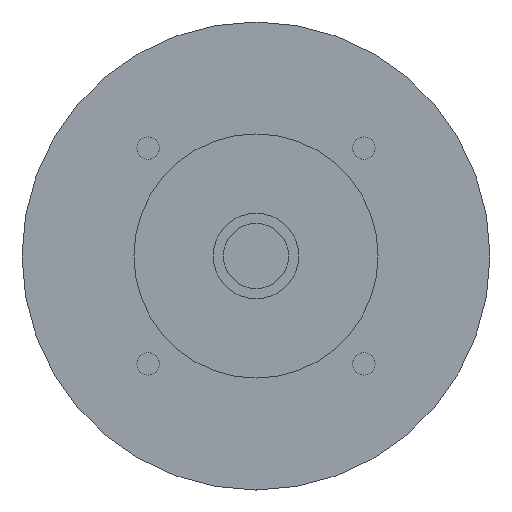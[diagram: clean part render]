
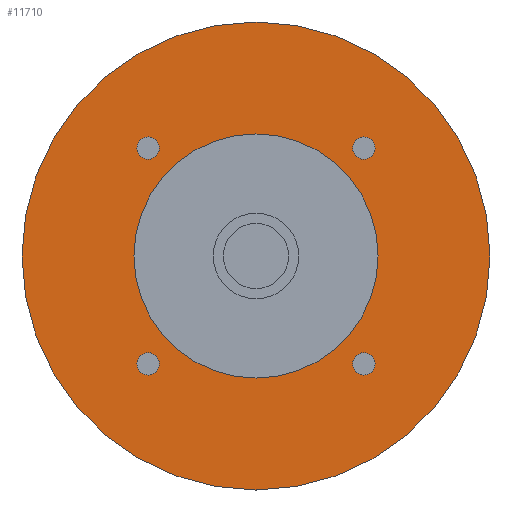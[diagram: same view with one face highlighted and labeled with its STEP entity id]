
A CAD part, left-side view. The second image highlights one B-rep face of the part: STEP entity #11710.
In plain terms, the highlighted planar face has unit normal (-1, 0, 0) as drawn and (0, 0, -1) by its records, which use the part's own axes.
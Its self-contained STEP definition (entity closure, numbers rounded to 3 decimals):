
#10630=CARTESIAN_POINT('',(29.267,-26.517,-47.4));
#10640=VERTEX_POINT('',#10630);
#10670=CARTESIAN_POINT('',(26.517,-26.517,-47.4));
#10680=DIRECTION('',(0.,0.,1.));
#10690=DIRECTION('',(-1.,0.,0.));
#10700=AXIS2_PLACEMENT_3D('',#10670,#10680,#10690);
#10710=CIRCLE('',#10700,2.75);
#10720=CARTESIAN_POINT('',(23.767,-26.517,-47.4));
#10730=VERTEX_POINT('',#10720);
#10740=EDGE_CURVE('',#10640,#10730,#10710,.T.);
#10860=CARTESIAN_POINT('',(43.75,0.,-47.4));
#10870=DIRECTION('',(0.,0.,-1.));
#10880=DIRECTION('',(1.,0.,0.));
#10890=AXIS2_PLACEMENT_3D('',#10860,#10870,#10880);
#10900=PLANE('',#10890);
#10910=CARTESIAN_POINT('',(0.,0.,
-47.4));
#10920=DIRECTION('',(0.,0.,1.));
#10930=DIRECTION('',(1.,0.,0.));
#10940=AXIS2_PLACEMENT_3D('',#10910,#10920,#10930);
#10950=CIRCLE('',#10940,30.);
#10960=CARTESIAN_POINT('',(30.,0.,-47.4));
#10970=VERTEX_POINT('',#10960);
#10980=CARTESIAN_POINT('',(-30.,0.,-47.4));
#10990=VERTEX_POINT('',#10980);
#11000=EDGE_CURVE('',#10970,#10990,#10950,.T.);
#11010=ORIENTED_EDGE('',*,*,#11000,.T.);
#11020=EDGE_CURVE('',#10990,#10970,#10950,.T.);
#11030=ORIENTED_EDGE('',*,*,#11020,.T.);
#11040=EDGE_LOOP('',(#11030,#11010));
#11050=FACE_BOUND('',#11040,.T.);
#11060=CARTESIAN_POINT('',(0.,0.,
-47.4));
#11070=DIRECTION('',(0.,0.,1.));
#11080=DIRECTION('',(1.,0.,0.));
#11090=AXIS2_PLACEMENT_3D('',#11060,#11070,#11080);
#11100=CIRCLE('',#11090,57.5);
#11110=CARTESIAN_POINT('',(57.5,0.,-47.4));
#11120=VERTEX_POINT('',#11110);
#11130=CARTESIAN_POINT('',(-57.5,0.,-47.4));
#11140=VERTEX_POINT('',#11130);
#11150=EDGE_CURVE('',#11120,#11140,#11100,.T.);
#11160=ORIENTED_EDGE('',*,*,#11150,.F.);
#11170=EDGE_CURVE('',#11140,#11120,#11100,.T.);
#11180=ORIENTED_EDGE('',*,*,#11170,.F.);
#11190=EDGE_LOOP('',(#11180,#11160));
#11200=FACE_OUTER_BOUND('',#11190,.T.);
#11210=EDGE_CURVE('',#10730,#10640,#10710,.T.);
#11220=ORIENTED_EDGE('',*,*,#11210,.T.);
#11230=ORIENTED_EDGE('',*,*,#10740,.T.);
#11240=EDGE_LOOP('',(#11230,#11220));
#11250=FACE_BOUND('',#11240,.T.);
#11260=CARTESIAN_POINT('',(-26.517,-26.517,-47.4));
#11270=DIRECTION('',(0.,0.,1.));
#11280=DIRECTION('',(-1.,0.,0.));
#11290=AXIS2_PLACEMENT_3D('',#11260,#11270,#11280);
#11300=CIRCLE('',#11290,2.75);
#11310=CARTESIAN_POINT('',(-29.267,-26.517,-47.4));
#11320=VERTEX_POINT('',#11310);
#11330=CARTESIAN_POINT('',(-23.767,-26.517,-47.4));
#11340=VERTEX_POINT('',#11330);
#11350=EDGE_CURVE('',#11320,#11340,#11300,.T.);
#11360=ORIENTED_EDGE('',*,*,#11350,.T.);
#11370=EDGE_CURVE('',#11340,#11320,#11300,.T.);
#11380=ORIENTED_EDGE('',*,*,#11370,.T.);
#11390=EDGE_LOOP('',(#11380,#11360));
#11400=FACE_BOUND('',#11390,.T.);
#11410=CARTESIAN_POINT('',(-26.517,26.517,-47.4));
#11420=DIRECTION('',(0.,0.,1.));
#11430=DIRECTION('',(-1.,0.,0.));
#11440=AXIS2_PLACEMENT_3D('',#11410,#11420,#11430);
#11450=CIRCLE('',#11440,2.75);
#11460=CARTESIAN_POINT('',(-29.267,26.517,-47.4));
#11470=VERTEX_POINT('',#11460);
#11480=CARTESIAN_POINT('',(-23.767,26.517,-47.4));
#11490=VERTEX_POINT('',#11480);
#11500=EDGE_CURVE('',#11470,#11490,#11450,.T.);
#11510=ORIENTED_EDGE('',*,*,#11500,.T.);
#11520=EDGE_CURVE('',#11490,#11470,#11450,.T.);
#11530=ORIENTED_EDGE('',*,*,#11520,.T.);
#11540=EDGE_LOOP('',(#11530,#11510));
#11550=FACE_BOUND('',#11540,.T.);
#11560=CARTESIAN_POINT('',(26.517,26.517,-47.4));
#11570=DIRECTION('',(0.,0.,1.));
#11580=DIRECTION('',(-1.,0.,0.));
#11590=AXIS2_PLACEMENT_3D('',#11560,#11570,#11580);
#11600=CIRCLE('',#11590,2.75);
#11610=CARTESIAN_POINT('',(23.767,26.517,-47.4));
#11620=VERTEX_POINT('',#11610);
#11630=CARTESIAN_POINT('',(29.267,26.517,-47.4));
#11640=VERTEX_POINT('',#11630);
#11650=EDGE_CURVE('',#11620,#11640,#11600,.T.);
#11660=ORIENTED_EDGE('',*,*,#11650,.T.);
#11670=EDGE_CURVE('',#11640,#11620,#11600,.T.);
#11680=ORIENTED_EDGE('',*,*,#11670,.T.);
#11690=EDGE_LOOP('',(#11680,#11660));
#11700=FACE_BOUND('',#11690,.T.);
#11710=ADVANCED_FACE('',(#11050,#11200,#11250,#11400,#11550,#11700),
#10900,.T.);
